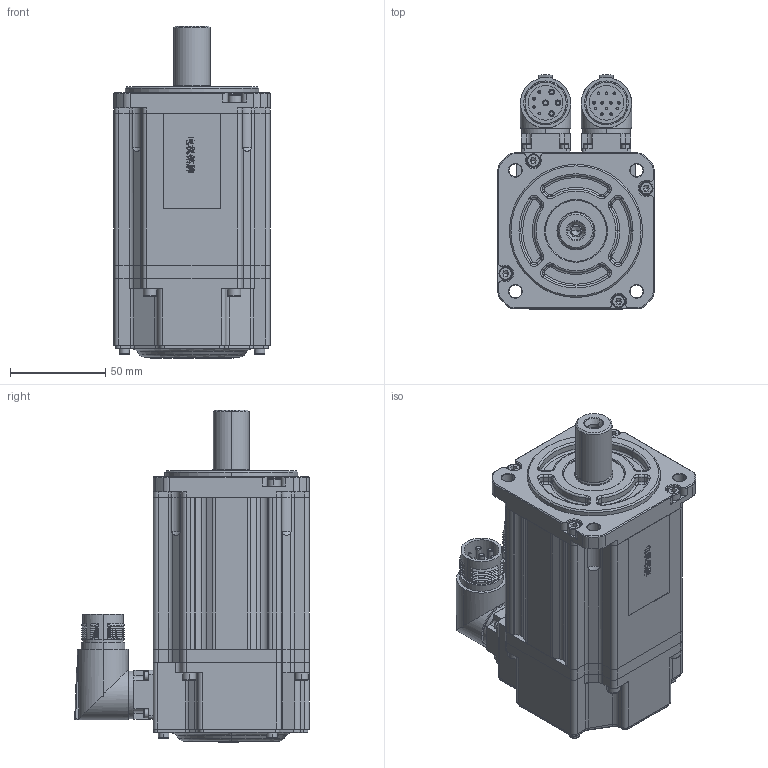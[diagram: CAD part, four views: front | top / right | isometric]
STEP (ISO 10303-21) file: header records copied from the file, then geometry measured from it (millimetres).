
FILE_DESCRIPTION (( 'STEP AP203' ), '1' );
FILE_NAME ('MC20-080-3L30-N102-0¡õPL-NNNN.STEP', '2025-09-19T07:41:39', ( '' ), ( '' ), 'SwSTEP 2.0', 'SolidWorks 2014', '' );
FILE_SCHEMA (( 'CONFIG_CONTROL_DESIGN' ));
Products named in the file (1): MC20-080-3L30-N102-0¡õPL-NNNN
Bounding box: 82 x 123.35 x 174.5 mm (x, y, z)
Volume: 937215 mm3; surface area: 146483.9 mm2
Topology: 27 solids, 27 shells, 2462 faces, 6054 edges, 3763 vertices
Faces by surface type: plane 1187, cylinder 540, cone 315, bspline 246, torus 174
Entity records: 80531 total; most frequent: CARTESIAN_POINT 23424, ORIENTED_EDGE 11960, DIRECTION 11509, EDGE_CURVE 5980, AXIS2_PLACEMENT_3D 4031, VERTEX_POINT 3763, VECTOR 3447, LINE 3447
